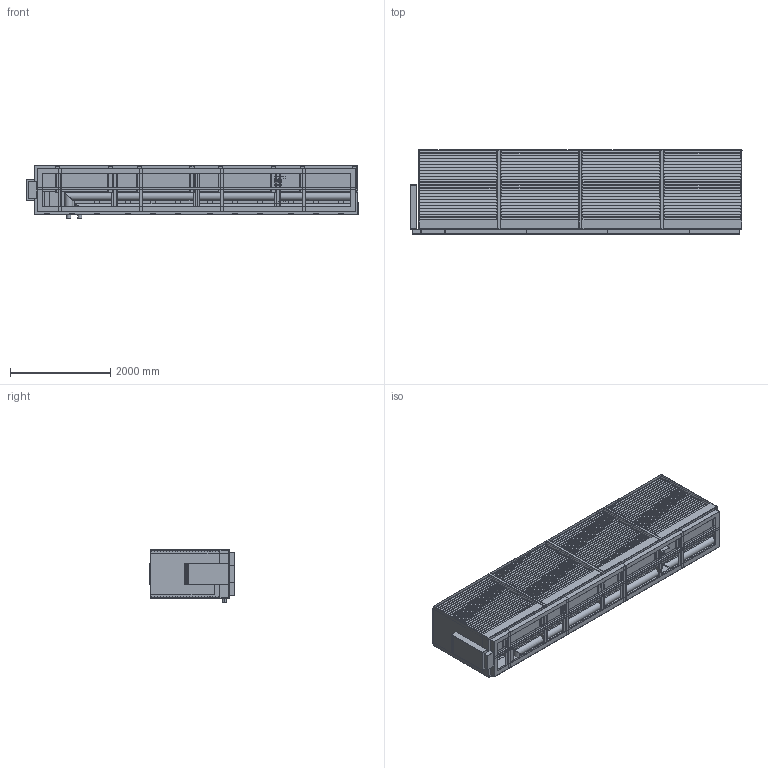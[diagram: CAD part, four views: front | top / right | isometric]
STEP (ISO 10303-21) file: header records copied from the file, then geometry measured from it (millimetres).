
FILE_DESCRIPTION (( 'STEP AP214' ), '1' );
FILE_NAME ('ADAPT MAX 10135_BIM.STEP', '2024-08-21T07:20:40', ( '' ), ( '' ), 'SwSTEP 2.0', 'SolidWorks 2021', '' );
FILE_SCHEMA (( 'AUTOMOTIVE_DESIGN' ));
Length unit declared in the file: millimetre
Products named in the file (5): adapt max - okvir_4; omara elektro_externa; ADAPT MAX 10135_BIM; ADAPT MAX design_dvokapnica_vmesni clen; ADAPT MAX design_dvokapnica_175
Assembly tree (6 placements, depth 2):
  ADAPT MAX 10135_BIM
    adapt max - okvir_4
    ADAPT MAX design_dvokapnica_vmesni clen  x3
    ADAPT MAX design_dvokapnica_175
    omara elektro_externa
Bounding box: 6625 x 1685 x 1040 mm (x, y, z)
Volume: 2202975637.3 mm3; surface area: 181537647.6 mm2
Topology: 89 solids, 275 shells, 2819 faces, 6581 edges, 4314 vertices
Faces by surface type: plane 2487, cylinder 292, bspline 24, torus 16
Entity records: 58034 total; most frequent: CARTESIAN_POINT 9662, ORIENTED_EDGE 7538, DIRECTION 7253, EDGE_CURVE 3771, VECTOR 3347, LINE 3347, VERTEX_POINT 2438, AXIS2_PLACEMENT_3D 1953
